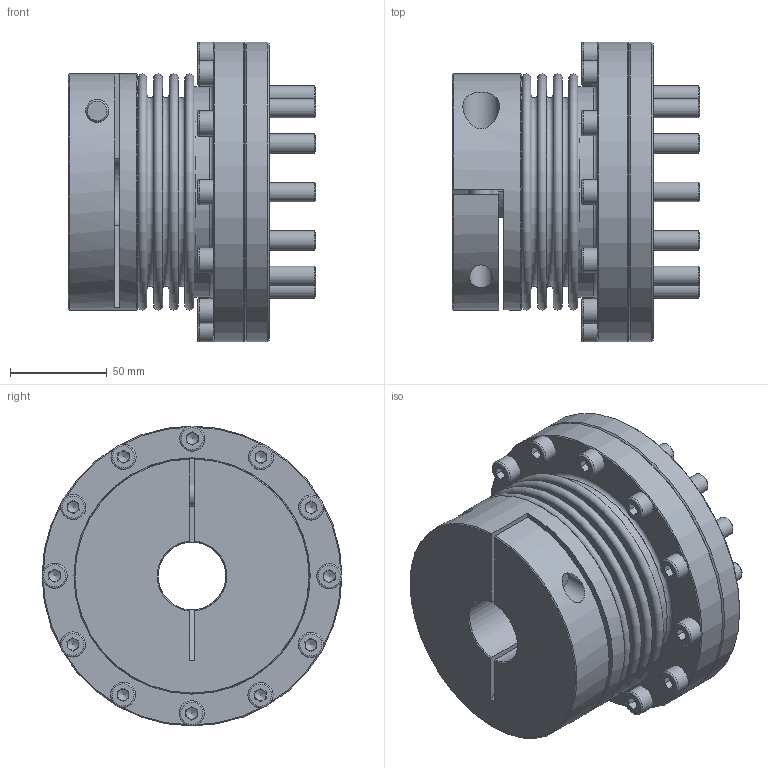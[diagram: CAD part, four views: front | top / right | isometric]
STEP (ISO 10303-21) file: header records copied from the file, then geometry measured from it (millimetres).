
FILE_DESCRIPTION( ( 'Unknown' ), '1' );
FILE_NAME( 'C:/Users/skarpstein/Desktop/KB4F/KB4F-500-100.stp', 'Unknown', ( 'Unknown' ), ( 'Unknown' ), 'PSStep 16.0.42', 'Unknown', ' ' );
FILE_SCHEMA( ( 'AUTOMOTIVE_DESIGN { 1 0 10303 214 1 1 1 1 }' ) );
Length unit declared in the file: millimetre
Products named in the file (8): Assem1; Socket Head Cap Screw_DIN_DIN 912 M12 x 55 --- 55N_1; BK500_Standard_0; KN500C_Standard; ISO 4017 - M10 x 40-N; Kupplungsflansch F500; Flansch A100-F500; Socket Head Cap Screw_DIN_DIN 912 M8 x 25 --- 25N
Assembly tree (29 placements, depth 2):
  Assem1
    Socket Head Cap Screw_DIN_DIN 912 M12 x 55 --- 55N_1
    BK500_Standard_0
    KN500C_Standard
    ISO 4017 - M10 x 40-N  x12
    Kupplungsflansch F500
    Flansch A100-F500
    Socket Head Cap Screw_DIN_DIN 912 M8 x 25 --- 25N  x12
Bounding box: 127.95 x 155 x 155 mm (x, y, z)
Volume: 804446.3 mm3; surface area: 275610.8 mm2
Topology: 29 solids, 29 shells, 695 faces, 1517 edges, 926 vertices
Faces by surface type: plane 411, cone 125, cylinder 105, torus 54
Full cylindrical faces by diameter (mm): 6.647 x12, 8 x12, 9 x12, 10 x12, 11 x12, 12 x2, 12.5 x1, 13 x12, 16 x12, 18 x1, 19 x1, 35 x1, 75 x1, 76 x1, 107.7 x3, 108.9 x2, 122 x1, 130 x3, 155 x2
Entity records: 6861 total; most frequent: CARTESIAN_POINT 1040, DIRECTION 923, ORIENTED_EDGE 608, AXIS2_PLACEMENT_3D 421, EDGE_LOOP 394, EDGE_CURVE 304, FACE_OUTER_BOUND 269, VERTEX_POINT 260
